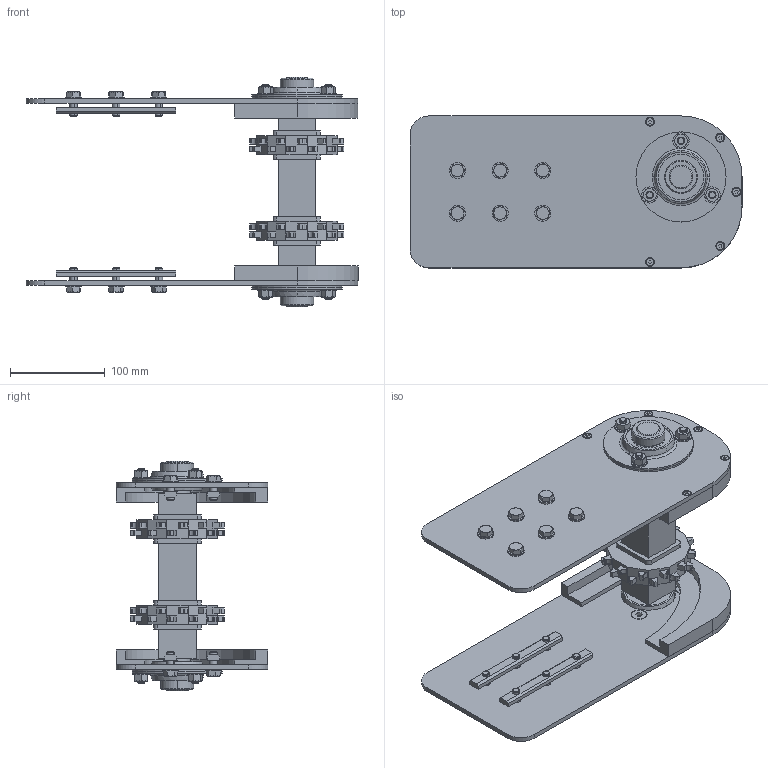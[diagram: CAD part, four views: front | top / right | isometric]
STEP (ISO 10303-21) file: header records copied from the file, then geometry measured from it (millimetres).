
FILE_DESCRIPTION (( 'STEP AP203' ), '1' );
FILE_NAME ('3000.152.200.STEP', '2018-03-09T16:21:05', ( '' ), ( '' ), 'SwSTEP 2.0', 'SolidWorks 2016', '' );
FILE_SCHEMA (( 'CONFIG_CONTROL_DESIGN' ));
Length unit declared in the file: millimetre
Products named in the file (14): SBPF 205; 3000.000.009; DADI ESAGONALI NORMALI UNI 5588 INOX_M8 UNI 558 INOX; M25S1240Q6; 3000.000.004; VITI TSEI UNI 5933 INOX_0820UNI5933A2; 3000.000.008; VITI TSEI UNI 5933 INOX_0412UNI5933A2; VITI TE UNI 5739 INOX_M8x20 UNI 5739 INOX; 084.302.060; 3000.152.200; 3000.000.003; 3000.152.003; RONDELLE UNI 6592 INOX_8.4x18 UNI 6592 INOX
Assembly tree (65 placements, depth 2):
  3000.152.200
    3000.000.003
    3000.000.004
    3000.152.003
    3000.000.008
    3000.000.009
    084.302.060  x4
    SBPF 205  x2
    M25S1240Q6  x2
    VITI TSEI UNI 5933 INOX_0820UNI5933A2  x6
    RONDELLE UNI 6592 INOX_8.4x18 UNI 6592 INOX  x18
    DADI ESAGONALI NORMALI UNI 5588 INOX_M8 UNI 558 INOX  x6
    VITI TE UNI 5739 INOX_M8x20 UNI 5739 INOX  x12
    VITI TSEI UNI 5933 INOX_0412UNI5933A2  x10
Bounding box: 350 x 160 x 242 mm (x, y, z)
Volume: 1420338.1 mm3; surface area: 498436.2 mm2
Topology: 117 solids, 117 shells, 1740 faces, 4086 edges, 2600 vertices
Faces by surface type: plane 950, cylinder 462, cone 292, sphere 20, torus 16
Entity records: 23072 total; most frequent: CARTESIAN_POINT 3648, DIRECTION 3596, ORIENTED_EDGE 3264, EDGE_CURVE 1632, AXIS2_PLACEMENT_3D 1272, VERTEX_POINT 1060, LINE 1052, VECTOR 1052
